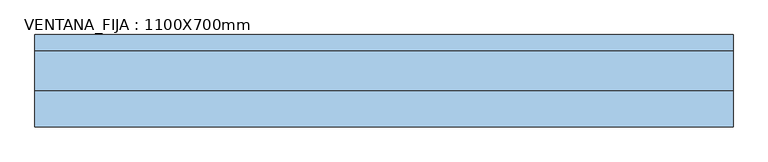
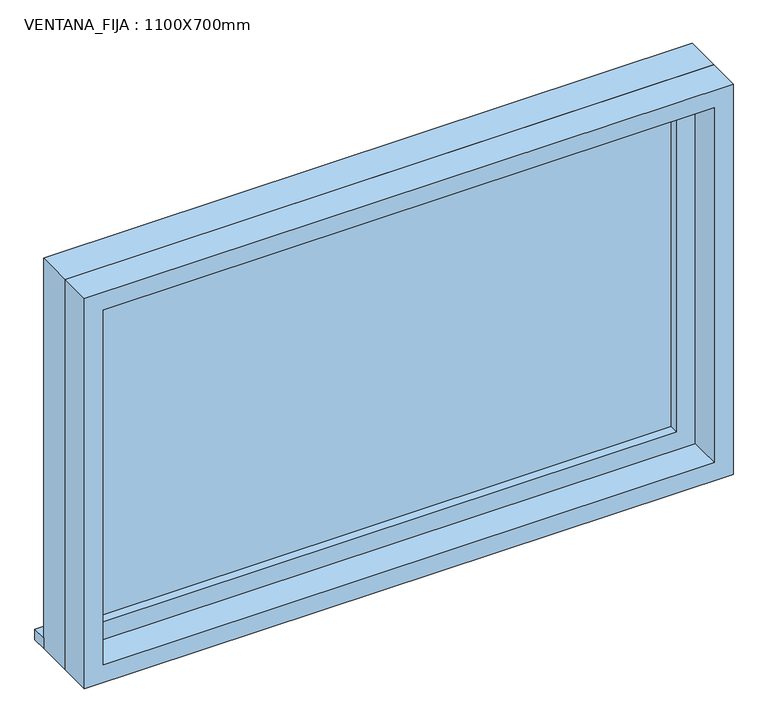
"""IFC4 building model written with IfcOpenShell, lengths in millimetres: window geometry, VENTANA_FIJA : 1100X700mm."""

from ifc_helpers import new_model, si_unit, frame, origin, place, context, project, spatial, polyline, outline, extrude, source, transform, mapped, element, save


def ventana_fija_1100x700mm_019d46d4(model_context):
    return source(origin(), model_context, "Body", "SweptSolid", [
        extrude(outline(polyline([(-588.1562388, 85.4), (511.9562388, 85.4), (511.9562388, 60.0), (-588.1562388, 60.0), (-588.1562388, 85.4)])), frame((0.0, 0.0, 1400.0), z_axis=(0.0, 0.0, 1.0), x_axis=(1.0, 0.0, 0.0)), (0.0, 0.0, 1.0), 19.05),
        extrude(outline(polyline([(448.4562388, 12.425), (-524.6562388, 12.425), (-524.6562388, 25.125), (448.4562388, 25.125), (448.4562388, 12.425)])), frame((0.0, 0.0, 1463.5), z_axis=(0.0, 0.0, 1.0), x_axis=(1.0, 0.0, 0.0)), (0.0, 0.0, 1.0), 573.0),
        extrude(outline(polyline([(2080.95, -569.1062388), (1419.05, -569.1062388), (1419.05, 492.9062388), (2080.95, 492.9062388), (2080.95, -569.1062388)]), holes=[polyline([(2036.5, -524.6562388), (2036.5, 448.4562388), (1463.5, 448.4562388), (1463.5, -524.6562388), (2036.5, -524.6562388)])]), frame((0.0, -3.45, 0.0), z_axis=(0.0, 1.0, 0.0), x_axis=(0.0, 0.0, 1.0)), (0.0, 0.0, 1.0), 44.45),
        extrude(outline(polyline([(2100.0, -588.1562388), (1400.0, -588.1562388), (1400.0, 511.9562388), (2100.0, 511.9562388), (2100.0, -588.1562388)]), holes=[polyline([(2068.25, -556.4062388), (2068.25, 480.2062388), (1431.75, 480.2062388), (1431.75, -556.4062388), (2068.25, -556.4062388)])]), frame((0.0, -60.0, 0.0), z_axis=(0.0, 1.0, 0.0), x_axis=(0.0, 0.0, 1.0)), (0.0, 0.0, 1.0), 56.55),
        extrude(outline(polyline([(2100.0, 511.9562388), (2100.0, -588.1562388), (1400.0, -588.1562388), (1400.0, 511.9562388), (2100.0, 511.9562388)]), holes=[polyline([(2080.95, 492.9062388), (1419.05, 492.9062388), (1419.05, -569.1062388), (2080.95, -569.1062388), (2080.95, 492.9062388)])]), frame((0.0, -3.45, 0.0), z_axis=(0.0, 1.0, 0.0), x_axis=(0.0, 0.0, 1.0)), (0.0, 0.0, 1.0), 63.45),
    ])


if __name__ == "__main__":
    model = new_model("IFC4")
    model_context = context("Model", 3, world=origin())
    ifc_project = project(units=[si_unit("LENGTHUNIT", "METRE", prefix="MILLI")], contexts=[model_context])
    site = spatial("IfcSite", under=ifc_project)
    building = spatial("IfcBuilding", under=site)
    placement = place(None, origin())
    ventana_fija_1100x700mm_shape = ventana_fija_1100x700mm_019d46d4(model_context)
    element("IfcWindow", 1, ObjectType="VENTANA_FIJA : 1100X700mm", at=placement, inside=building, context=model_context, shape_type="MappedRepresentation", body=[
        mapped(ventana_fija_1100x700mm_shape, transform((0.0, 0.0, 0.0), x_axis=(1.0, 0.0, 0.0), y_axis=(0.0, 1.0, 0.0), z_axis=(0.0, 0.0, 1.0))),
    ])
    save(model, "model.ifc")
